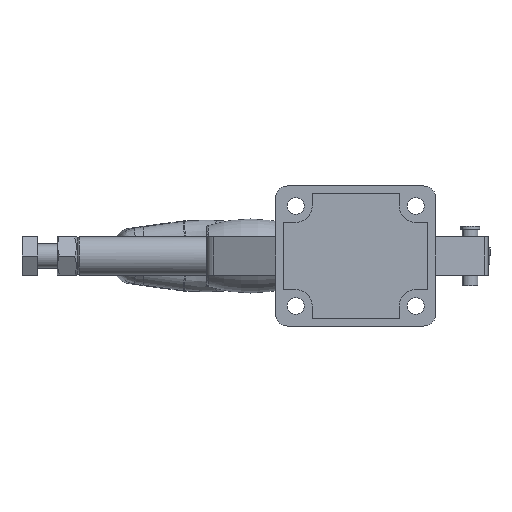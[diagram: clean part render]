
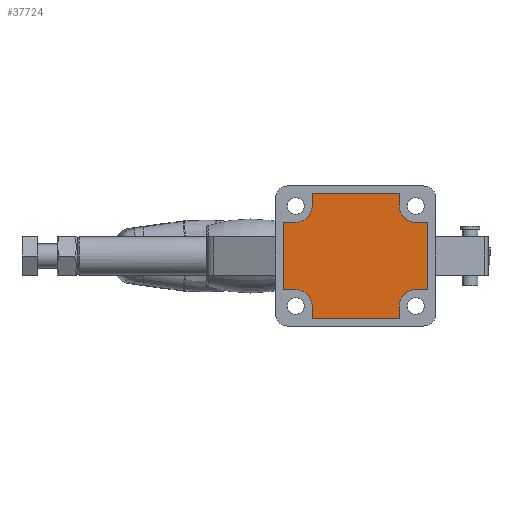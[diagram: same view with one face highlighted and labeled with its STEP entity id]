
A CAD part, front view. The second image highlights one B-rep face of the part: STEP entity #37724.
In plain terms, the highlighted planar face has unit normal (0, -1, 0).
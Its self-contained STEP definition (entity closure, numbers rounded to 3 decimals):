
#105 = DIRECTION ( 'NONE',  ( 0., 0., -1. ) ) ;
#385 = DIRECTION ( 'NONE',  ( 0., 0., 1. ) ) ;
#567 = CARTESIAN_POINT ( 'NONE',  ( -21.75, 2., 25. ) ) ;
#943 = LINE ( 'NONE', #28322, #2026 ) ;
#1672 = DIRECTION ( 'NONE',  ( 1., 0., 0. ) ) ;
#1850 = VERTEX_POINT ( 'NONE', #17023 ) ;
#2026 = VECTOR ( 'NONE', #7676, 1000. ) ;
#2190 = ORIENTED_EDGE ( 'NONE', *, *, #27161, .T. ) ;
#2241 = EDGE_CURVE ( 'NONE', #2558, #16654, #30679, .T. ) ;
#2417 = ORIENTED_EDGE ( 'NONE', *, *, #11640, .T. ) ;
#2485 = AXIS2_PLACEMENT_3D ( 'NONE', #7408, #38998, #18390 ) ;
#2558 = VERTEX_POINT ( 'NONE', #31725 ) ;
#2670 = VECTOR ( 'NONE', #43805, 1000. ) ;
#2707 = DIRECTION ( 'NONE',  ( 0., 1., 0. ) ) ;
#2978 = EDGE_LOOP ( 'NONE', ( #2190, #20729, #11243, #11558, #20576, #13248, #21001, #37621, #34008, #12114, #2417, #36007, #20156, #11830, #12109, #30064 ) ) ;
#3321 = VERTEX_POINT ( 'NONE', #19147 ) ;
#3901 = AXIS2_PLACEMENT_3D ( 'NONE', #29174, #8520, #32635 ) ;
#4410 = EDGE_CURVE ( 'NONE', #43470, #41979, #32731, .T. ) ;
#5103 = CARTESIAN_POINT ( 'NONE',  ( -30., 2., -16.75 ) ) ;
#6088 = CIRCLE ( 'NONE', #3901, 8.25 ) ;
#6937 = EDGE_CURVE ( 'NONE', #30536, #9025, #25423, .T. ) ;
#7151 = VECTOR ( 'NONE', #37413, 1000. ) ;
#7408 = CARTESIAN_POINT ( 'NONE',  ( 30., 2., 25. ) ) ;
#7676 = DIRECTION ( 'NONE',  ( 1., 0., 0. ) ) ;
#8520 = DIRECTION ( 'NONE',  ( 0., 1., 0. ) ) ;
#9025 = VERTEX_POINT ( 'NONE', #15865 ) ;
#11243 = ORIENTED_EDGE ( 'NONE', *, *, #38240, .T. ) ;
#11558 = ORIENTED_EDGE ( 'NONE', *, *, #17207, .T. ) ;
#11640 = EDGE_CURVE ( 'NONE', #3321, #20426, #18700, .T. ) ;
#11792 = LINE ( 'NONE', #12818, #2670 ) ;
#11830 = ORIENTED_EDGE ( 'NONE', *, *, #2241, .T. ) ;
#12011 = VERTEX_POINT ( 'NONE', #20194 ) ;
#12109 = ORIENTED_EDGE ( 'NONE', *, *, #32896, .T. ) ;
#12114 = ORIENTED_EDGE ( 'NONE', *, *, #22697, .T. ) ;
#12396 = VECTOR ( 'NONE', #31943, 1000. ) ;
#12465 = VERTEX_POINT ( 'NONE', #27690 ) ;
#12789 = CARTESIAN_POINT ( 'NONE',  ( -21.75, 2., -31. ) ) ;
#12818 = CARTESIAN_POINT ( 'NONE',  ( -36., 2., -16.75 ) ) ;
#12819 = CIRCLE ( 'NONE', #23646, 8.25 ) ;
#13248 = ORIENTED_EDGE ( 'NONE', *, *, #35702, .T. ) ;
#13498 = CARTESIAN_POINT ( 'NONE',  ( 36., 2., 16.75 ) ) ;
#14372 = DIRECTION ( 'NONE',  ( 0., 0., -1. ) ) ;
#14382 = CARTESIAN_POINT ( 'NONE',  ( -21.75, 2., -25. ) ) ;
#14619 = DIRECTION ( 'NONE',  ( 0., 1., 0. ) ) ;
#14796 = CARTESIAN_POINT ( 'NONE',  ( -36., 2., -16.75 ) ) ;
#14933 = PLANE ( 'NONE',  #2485 ) ;
#15162 = VECTOR ( 'NONE', #14372, 1000. ) ;
#15272 = LINE ( 'NONE', #15482, #16353 ) ;
#15482 = CARTESIAN_POINT ( 'NONE',  ( -30., 2., 16.75 ) ) ;
#15865 = CARTESIAN_POINT ( 'NONE',  ( -21.75, 2., 25. ) ) ;
#16353 = VECTOR ( 'NONE', #18939, 1000. ) ;
#16458 = VECTOR ( 'NONE', #1672, 1000. ) ;
#16467 = CARTESIAN_POINT ( 'NONE',  ( 21.75, 2., -31. ) ) ;
#16654 = VERTEX_POINT ( 'NONE', #41877 ) ;
#17023 = CARTESIAN_POINT ( 'NONE',  ( 21.75, 2., 25. ) ) ;
#17142 = AXIS2_PLACEMENT_3D ( 'NONE', #41310, #20695, #105 ) ;
#17207 = EDGE_CURVE ( 'NONE', #12011, #37218, #15272, .T. ) ;
#18003 = EDGE_CURVE ( 'NONE', #20048, #2558, #25477, .T. ) ;
#18390 = DIRECTION ( 'NONE',  ( 0., 0., -1. ) ) ;
#18609 = VERTEX_POINT ( 'NONE', #14796 ) ;
#18700 = CIRCLE ( 'NONE', #17142, 8.25 ) ;
#18939 = DIRECTION ( 'NONE',  ( -1., 0., 0. ) ) ;
#19147 = CARTESIAN_POINT ( 'NONE',  ( 21.75, 2., -25. ) ) ;
#19581 = LINE ( 'NONE', #44226, #36803 ) ;
#19605 = CARTESIAN_POINT ( 'NONE',  ( 30., 2., -16.75 ) ) ;
#19686 = VERTEX_POINT ( 'NONE', #16467 ) ;
#19758 = AXIS2_PLACEMENT_3D ( 'NONE', #23276, #2707, #26766 ) ;
#20048 = VERTEX_POINT ( 'NONE', #30585 ) ;
#20156 = ORIENTED_EDGE ( 'NONE', *, *, #18003, .T. ) ;
#20194 = CARTESIAN_POINT ( 'NONE',  ( -30., 2., 16.75 ) ) ;
#20426 = VERTEX_POINT ( 'NONE', #19605 ) ;
#20576 = ORIENTED_EDGE ( 'NONE', *, *, #43297, .T. ) ;
#20695 = DIRECTION ( 'NONE',  ( 0., 1., 0. ) ) ;
#20729 = ORIENTED_EDGE ( 'NONE', *, *, #6937, .T. ) ;
#21001 = ORIENTED_EDGE ( 'NONE', *, *, #4410, .T. ) ;
#22697 = EDGE_CURVE ( 'NONE', #19686, #3321, #29970, .T. ) ;
#22942 = VECTOR ( 'NONE', #32638, 1000. ) ;
#23276 = CARTESIAN_POINT ( 'NONE',  ( -30., 2., -25. ) ) ;
#23288 = EDGE_CURVE ( 'NONE', #30901, #19686, #41247, .T. ) ;
#23646 = AXIS2_PLACEMENT_3D ( 'NONE', #35232, #14619, #38677 ) ;
#23782 = DIRECTION ( 'NONE',  ( -1., 0., 0. ) ) ;
#24748 = VECTOR ( 'NONE', #40705, 1000. ) ;
#25423 = LINE ( 'NONE', #567, #15162 ) ;
#25477 = LINE ( 'NONE', #13498, #7151 ) ;
#26766 = DIRECTION ( 'NONE',  ( 0., 0., -1. ) ) ;
#27161 = EDGE_CURVE ( 'NONE', #12465, #30536, #19581, .T. ) ;
#27690 = CARTESIAN_POINT ( 'NONE',  ( 21.75, 2., 31. ) ) ;
#27767 = CARTESIAN_POINT ( 'NONE',  ( 21.75, 2., -25. ) ) ;
#28322 = CARTESIAN_POINT ( 'NONE',  ( 30., 2., -16.75 ) ) ;
#29120 = CARTESIAN_POINT ( 'NONE',  ( -21.75, 2., 31. ) ) ;
#29174 = CARTESIAN_POINT ( 'NONE',  ( -30., 2., 25. ) ) ;
#29970 = LINE ( 'NONE', #27767, #36963 ) ;
#30064 = ORIENTED_EDGE ( 'NONE', *, *, #42815, .T. ) ;
#30344 = EDGE_CURVE ( 'NONE', #41979, #30901, #43636, .T. ) ;
#30536 = VERTEX_POINT ( 'NONE', #29120 ) ;
#30585 = CARTESIAN_POINT ( 'NONE',  ( 36., 2., -16.75 ) ) ;
#30679 = LINE ( 'NONE', #32536, #12396 ) ;
#30901 = VERTEX_POINT ( 'NONE', #12789 ) ;
#31528 = DIRECTION ( 'NONE',  ( 0., 0., -1. ) ) ;
#31725 = CARTESIAN_POINT ( 'NONE',  ( 36., 2., 16.75 ) ) ;
#31943 = DIRECTION ( 'NONE',  ( -1., 0., 0. ) ) ;
#32536 = CARTESIAN_POINT ( 'NONE',  ( 30., 2., 16.75 ) ) ;
#32635 = DIRECTION ( 'NONE',  ( 0., 0., -1. ) ) ;
#32638 = DIRECTION ( 'NONE',  ( 1., 0., 0. ) ) ;
#32731 = CIRCLE ( 'NONE', #19758, 8.25 ) ;
#32896 = EDGE_CURVE ( 'NONE', #16654, #1850, #12819, .T. ) ;
#33780 = CARTESIAN_POINT ( 'NONE',  ( 21.75, 2., 25. ) ) ;
#34008 = ORIENTED_EDGE ( 'NONE', *, *, #23288, .T. ) ;
#34288 = EDGE_CURVE ( 'NONE', #20426, #20048, #943, .T. ) ;
#34497 = VECTOR ( 'NONE', #31528, 1000. ) ;
#35193 = FACE_OUTER_BOUND ( 'NONE', #2978, .T. ) ;
#35232 = CARTESIAN_POINT ( 'NONE',  ( 30., 2., 25. ) ) ;
#35702 = EDGE_CURVE ( 'NONE', #18609, #43470, #43904, .T. ) ;
#36007 = ORIENTED_EDGE ( 'NONE', *, *, #34288, .T. ) ;
#36803 = VECTOR ( 'NONE', #23782, 1000. ) ;
#36963 = VECTOR ( 'NONE', #385, 1000. ) ;
#37218 = VERTEX_POINT ( 'NONE', #38293 ) ;
#37413 = DIRECTION ( 'NONE',  ( 0., 0., 1. ) ) ;
#37621 = ORIENTED_EDGE ( 'NONE', *, *, #30344, .T. ) ;
#37724 = ADVANCED_FACE ( 'NONE', ( #35193 ), #14933, .T. ) ;
#38207 = CARTESIAN_POINT ( 'NONE',  ( -30., 2., -16.75 ) ) ;
#38240 = EDGE_CURVE ( 'NONE', #9025, #12011, #6088, .T. ) ;
#38293 = CARTESIAN_POINT ( 'NONE',  ( -36., 2., 16.75 ) ) ;
#38677 = DIRECTION ( 'NONE',  ( 0., 0., -1. ) ) ;
#38998 = DIRECTION ( 'NONE',  ( 0., -1., 0. ) ) ;
#39068 = CARTESIAN_POINT ( 'NONE',  ( -21.75, 2., -25. ) ) ;
#39381 = CARTESIAN_POINT ( 'NONE',  ( 21.75, 2., -31. ) ) ;
#40705 = DIRECTION ( 'NONE',  ( 0., 0., 1. ) ) ;
#41247 = LINE ( 'NONE', #39381, #22942 ) ;
#41310 = CARTESIAN_POINT ( 'NONE',  ( 30., 2., -25. ) ) ;
#41877 = CARTESIAN_POINT ( 'NONE',  ( 30., 2., 16.75 ) ) ;
#41950 = LINE ( 'NONE', #33780, #24748 ) ;
#41979 = VERTEX_POINT ( 'NONE', #39068 ) ;
#42815 = EDGE_CURVE ( 'NONE', #1850, #12465, #41950, .T. ) ;
#43297 = EDGE_CURVE ( 'NONE', #37218, #18609, #11792, .T. ) ;
#43470 = VERTEX_POINT ( 'NONE', #38207 ) ;
#43636 = LINE ( 'NONE', #14382, #34497 ) ;
#43805 = DIRECTION ( 'NONE',  ( 0., 0., -1. ) ) ;
#43904 = LINE ( 'NONE', #5103, #16458 ) ;
#44226 = CARTESIAN_POINT ( 'NONE',  ( -21.75, 2., 31. ) ) ;
